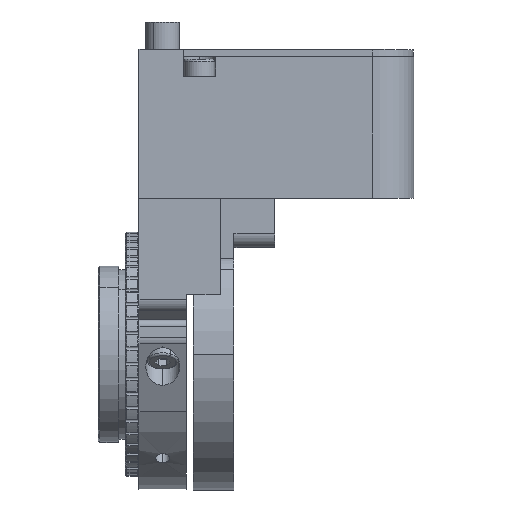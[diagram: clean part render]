
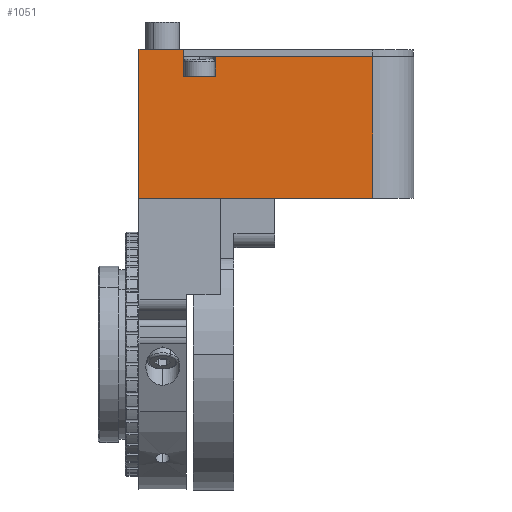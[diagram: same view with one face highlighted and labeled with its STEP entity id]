
A CAD part, left-side view. The second image highlights one B-rep face of the part: STEP entity #1051.
In plain terms, the highlighted planar face has unit normal (-1, 0, 0).
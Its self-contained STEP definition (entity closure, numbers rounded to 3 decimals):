
#87 = CARTESIAN_POINT ( 'NONE',  ( -23., 8.95, 18. ) ) ;
#89 = DIRECTION ( 'NONE',  ( 0., 1., 0. ) ) ;
#223 = VERTEX_POINT ( 'NONE', #21958 ) ;
#312 = CARTESIAN_POINT ( 'NONE',  ( -23., 8.95, 20.9 ) ) ;
#616 = EDGE_CURVE ( 'NONE', #22734, #6923, #17923, .T. ) ;
#631 = ORIENTED_EDGE ( 'NONE', *, *, #7472, .F. ) ;
#693 = ORIENTED_EDGE ( 'NONE', *, *, #616, .F. ) ;
#913 = DIRECTION ( 'NONE',  ( 0., 0., 1. ) ) ;
#1051 = ADVANCED_FACE ( 'NONE', ( #11479 ), #1517, .F. ) ;
#1517 = PLANE ( 'NONE',  #23559 ) ;
#2021 = CARTESIAN_POINT ( 'NONE',  ( -23., 20.25, 22. ) ) ;
#2705 = CARTESIAN_POINT ( 'NONE',  ( -23., 13.75, 18. ) ) ;
#3733 = CARTESIAN_POINT ( 'NONE',  ( -23., 20.25, 22. ) ) ;
#3888 = ORIENTED_EDGE ( 'NONE', *, *, #7701, .F. ) ;
#4254 = EDGE_CURVE ( 'NONE', #17219, #223, #10734, .T. ) ;
#4278 = DIRECTION ( 'NONE',  ( 0., 0., 1. ) ) ;
#4371 = VECTOR ( 'NONE', #21944, 1000. ) ;
#4722 = CARTESIAN_POINT ( 'NONE',  ( -23., -14.25, 22. ) ) ;
#4839 = EDGE_LOOP ( 'NONE', ( #19855, #693, #3888, #9678, #5801, #631, #8196, #10748 ) ) ;
#4977 = EDGE_CURVE ( 'NONE', #17219, #15455, #19473, .T. ) ;
#5261 = CARTESIAN_POINT ( 'NONE',  ( -23., -14.25, 0. ) ) ;
#5801 = ORIENTED_EDGE ( 'NONE', *, *, #4254, .T. ) ;
#5911 = VECTOR ( 'NONE', #913, 1000. ) ;
#5958 = CARTESIAN_POINT ( 'NONE',  ( -23., 13.75, 18. ) ) ;
#6923 = VERTEX_POINT ( 'NONE', #7997 ) ;
#7472 = EDGE_CURVE ( 'NONE', #17547, #223, #9977, .T. ) ;
#7701 = EDGE_CURVE ( 'NONE', #15455, #22734, #9406, .T. ) ;
#7997 = CARTESIAN_POINT ( 'NONE',  ( -23., -14.25, 20.9 ) ) ;
#8165 = EDGE_CURVE ( 'NONE', #17547, #22100, #23470, .T. ) ;
#8196 = ORIENTED_EDGE ( 'NONE', *, *, #8165, .T. ) ;
#8310 = CARTESIAN_POINT ( 'NONE',  ( -23., 20.25, 0. ) ) ;
#9406 = LINE ( 'NONE', #22293, #15993 ) ;
#9505 = DIRECTION ( 'NONE',  ( 0., 0., -1. ) ) ;
#9678 = ORIENTED_EDGE ( 'NONE', *, *, #4977, .F. ) ;
#9825 = EDGE_CURVE ( 'NONE', #18493, #6923, #21330, .T. ) ;
#9977 = LINE ( 'NONE', #23568, #10568 ) ;
#10167 = DIRECTION ( 'NONE',  ( 0., -1., 0. ) ) ;
#10216 = CARTESIAN_POINT ( 'NONE',  ( -23., 13.75, 20.9 ) ) ;
#10452 = CARTESIAN_POINT ( 'NONE',  ( -23., 20.25, 18. ) ) ;
#10456 = VECTOR ( 'NONE', #10167, 1000. ) ;
#10568 = VECTOR ( 'NONE', #13710, 1000. ) ;
#10734 = LINE ( 'NONE', #5958, #21334 ) ;
#10748 = ORIENTED_EDGE ( 'NONE', *, *, #19654, .T. ) ;
#11479 = FACE_OUTER_BOUND ( 'NONE', #4839, .T. ) ;
#13710 = DIRECTION ( 'NONE',  ( 0., -1., 0. ) ) ;
#13936 = DIRECTION ( 'NONE',  ( 0., -1., 0. ) ) ;
#15455 = VERTEX_POINT ( 'NONE', #87 ) ;
#15993 = VECTOR ( 'NONE', #24822, 1000. ) ;
#17219 = VERTEX_POINT ( 'NONE', #2705 ) ;
#17244 = DIRECTION ( 'NONE',  ( 1., 0., 0. ) ) ;
#17547 = VERTEX_POINT ( 'NONE', #2021 ) ;
#17923 = LINE ( 'NONE', #10216, #23623 ) ;
#18334 = LINE ( 'NONE', #8310, #10456 ) ;
#18493 = VERTEX_POINT ( 'NONE', #5261 ) ;
#19289 = VECTOR ( 'NONE', #9505, 1000. ) ;
#19473 = LINE ( 'NONE', #10452, #4371 ) ;
#19654 = EDGE_CURVE ( 'NONE', #22100, #18493, #18334, .T. ) ;
#19855 = ORIENTED_EDGE ( 'NONE', *, *, #9825, .T. ) ;
#21085 = CARTESIAN_POINT ( 'NONE',  ( -23., 20.25, 22. ) ) ;
#21330 = LINE ( 'NONE', #4722, #5911 ) ;
#21334 = VECTOR ( 'NONE', #4278, 1000. ) ;
#21944 = DIRECTION ( 'NONE',  ( 0., -1., 0. ) ) ;
#21958 = CARTESIAN_POINT ( 'NONE',  ( -23., 13.75, 22. ) ) ;
#22100 = VERTEX_POINT ( 'NONE', #24965 ) ;
#22293 = CARTESIAN_POINT ( 'NONE',  ( -23., 8.95, 18. ) ) ;
#22734 = VERTEX_POINT ( 'NONE', #312 ) ;
#23470 = LINE ( 'NONE', #21085, #19289 ) ;
#23559 = AXIS2_PLACEMENT_3D ( 'NONE', #3733, #17244, #89 ) ;
#23568 = CARTESIAN_POINT ( 'NONE',  ( -23., 20.25, 22. ) ) ;
#23623 = VECTOR ( 'NONE', #13936, 1000. ) ;
#24822 = DIRECTION ( 'NONE',  ( 0., 0., 1. ) ) ;
#24965 = CARTESIAN_POINT ( 'NONE',  ( -23., 20.25, 0. ) ) ;
